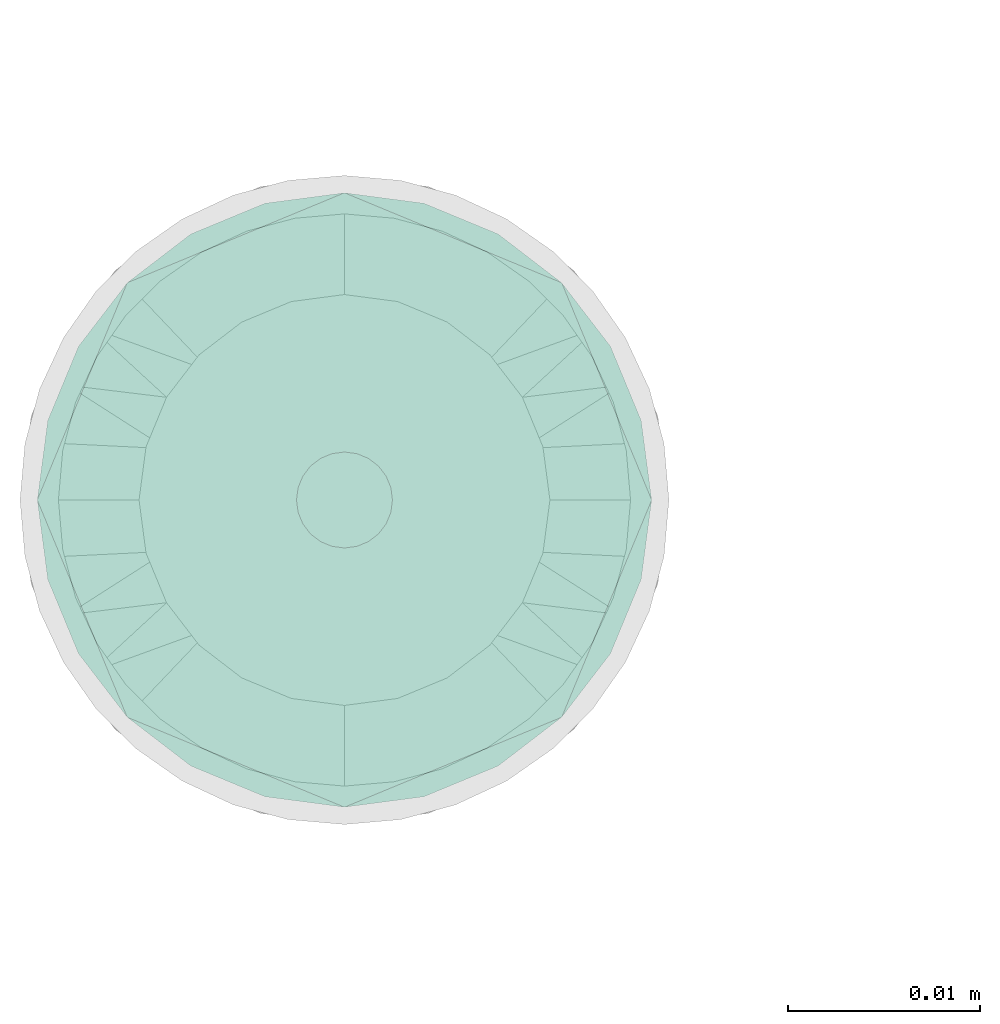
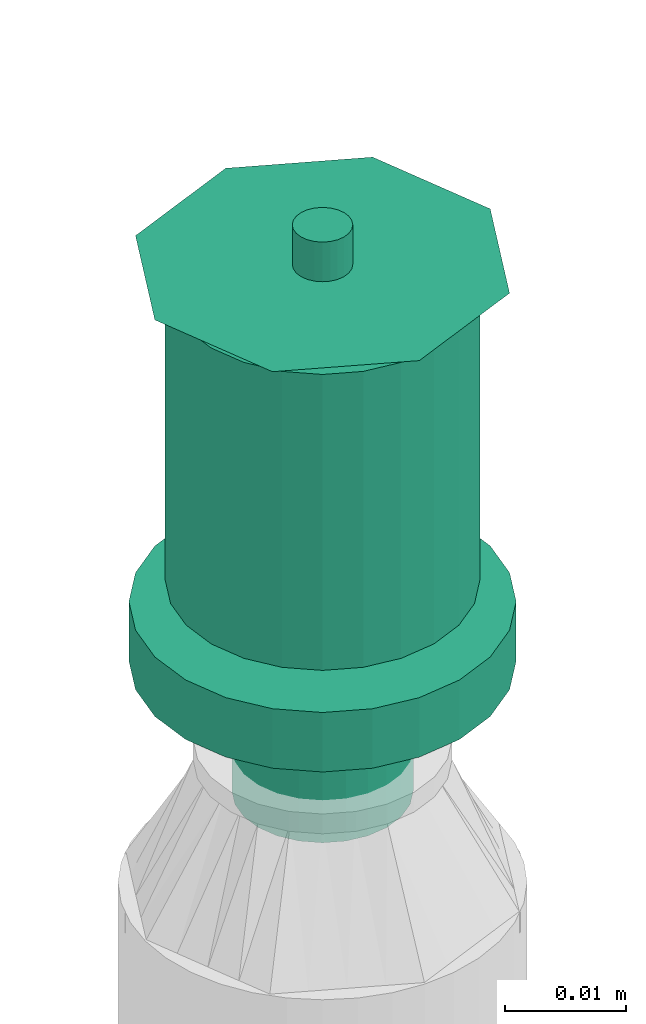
# One storey, part 16 of 44: 1 flow terminal.
"""IFC2X3 building model written with IfcOpenShell, lengths in millimetres."""

from ifc_helpers import new_model, entity, si_unit, converted_unit, derived_unit, direction, frame, origin_with_axes, place, context, subcontext, project, spatial, open_shell, surface_model, source, transform, mapped, type_object, element, save


model = new_model("IFC2X3")

# Units and contexts
model_context = context("Model", 3, precision=0.01, world=frame((0.0, 4.29681676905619e-09, 0.0)), true_north=direction((4.01073788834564e-13, 1.0)))
plan_context = context("Plan", 3, precision=0.01, world=frame((0.0, 4.29681676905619e-09, 0.0)), true_north=direction((4.01073788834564e-13, 1.0)))
body_context = subcontext(model_context, "Body", "Model", "MODEL_VIEW")
ifc_project = project(units=[converted_unit("PLANEANGLEUNIT", "DEGREE", entity("IfcPositiveLengthMeasure", 0.0174532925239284), si_unit("PLANEANGLEUNIT", "RADIAN"), dimensions=[0, 0, 0, 0, 0, 0, 0]), si_unit("AREAUNIT", "SQUARE_METRE"), si_unit("LENGTHUNIT", "METRE", prefix="MILLI"), si_unit("MASSUNIT", "GRAM", prefix="KILO"), si_unit("POWERUNIT", "WATT"), si_unit("PRESSUREUNIT", "PASCAL"), si_unit("FORCEUNIT", "NEWTON", prefix="KILO"), si_unit("ELECTRICVOLTAGEUNIT", "VOLT"), si_unit("ELECTRICCURRENTUNIT", "AMPERE"), si_unit("THERMODYNAMICTEMPERATUREUNIT", "DEGREE_CELSIUS"), si_unit("TIMEUNIT", "SECOND"), si_unit("VOLUMEUNIT", "CUBIC_METRE"), derived_unit("LINEARVELOCITYUNIT", [(si_unit("LENGTHUNIT", "METRE"), 1), (si_unit("TIMEUNIT", "SECOND"), -1)]), derived_unit("VOLUMETRICFLOWRATEUNIT", [(si_unit("VOLUMEUNIT", "CUBIC_METRE"), 1), (si_unit("TIMEUNIT", "SECOND"), -1)]), derived_unit("THERMALTRANSMITTANCEUNIT", [(si_unit("POWERUNIT", "WATT"), 1), (si_unit("THERMODYNAMICTEMPERATUREUNIT", "KELVIN"), -1), (si_unit("AREAUNIT", "SQUARE_METRE"), -1)]), derived_unit("SOUNDPRESSUREUNIT", [(si_unit("PRESSUREUNIT", "PASCAL"), 1)])], contexts=[model_context, plan_context])

# Site, building, storey
site_placement = place(None, frame((0.0, -4.29681676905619e-09, 0.0), z_axis=(0.0, 0.0, 1.0), x_axis=(1.0, 0.0, 0.0)))
site = spatial("IfcSite", under=ifc_project, at=site_placement, CompositionType="ELEMENT")
building_placement = place(site_placement, frame((0.0, 4.29681676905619e-09, 0.0), z_axis=(0.0, 0.0, 1.0), x_axis=(1.0, 0.0, 0.0)))
building = spatial("IfcBuilding", under=site, at=building_placement, Name="mc-building", CompositionType="ELEMENT")
storey_placement = place(building_placement, frame((0.0, 0.0, 207370.0), z_axis=(0.0, 0.0, 1.0), x_axis=(1.0, 0.0, 0.0)))
storey = spatial("IfcBuildingStorey", under=building, at=storey_placement, Name="Nivå E", CompositionType="ELEMENT", Elevation=207370.0)

# Flow terminal
fire_suppression_terminal_type = type_object("IfcFireSuppressionTerminalType", Name="68DGR-STD-STÅENDE", PredefinedType="NOTDEFINED")
shared_shape = source(origin_with_axes(), body_context, "Body", "SurfaceModel", [
    surface_model("IfcShellBasedSurfaceModel", [(3.36465, -12.55704, 51.0), (6.5, -11.25833, 51.0), (9.19239, -9.19239, 51.0), (12.55704, -3.36465, 51.0), (-11.25833, -6.5, 51.0), (11.25833, -6.5, 51.0), (-13.0, 0.0, 51.0), (0.0, -13.0, 51.0), (-6.5, -11.25833, 51.0), (-3.36465, -12.55704, 51.0), (-9.19239, -9.19239, 51.0), (-12.55704, -3.36465, 51.0), (13.0, 0.0, 51.0), (12.55704, 3.36465, 51.0), (11.25833, 6.5, 51.0), (9.19239, 9.19239, 51.0), (6.5, 11.25833, 51.0), (3.36465, 12.55704, 51.0), (0.0, 13.0, 51.0), (-3.36465, 12.55704, 51.0), (-12.55704, 3.36465, 51.0), (-9.19239, 9.19239, 51.0), (-11.25833, 6.5, 51.0), (-6.5, 11.25833, 51.0), (0.0, 13.0, 21.14766), (3.36465, 12.55704, 21.14766), (6.5, 11.25833, 21.14766), (-3.36465, 12.55704, 21.14766), (9.19239, 9.19239, 21.14766), (11.25833, 6.5, 21.14766), (12.55704, 3.36465, 21.14766), (-12.55704, 3.36465, 21.14766), (-11.25833, -6.5, 21.14766), (-9.19239, 9.19239, 21.14766), (-6.5, 11.25833, 21.14766), (-11.25833, 6.5, 21.14766), (-13.0, 0.0, 21.14766), (12.55704, -3.36465, 21.14766), (9.19239, -9.19239, 21.14766), (11.25833, -6.5, 21.14766), (6.5, -11.25833, 21.14766), (3.36465, -12.55704, 21.14766), (-6.5, -11.25833, 21.14766), (-9.19239, -9.19239, 21.14766), (-12.55704, -3.36465, 21.14766), (0.0, -13.0, 21.14766), (-3.36465, -12.55704, 21.14766), (13.0, 0.0, 21.14766), (7.24444, -1.94114, 0.1), (1.94114, -7.24444, 0.1), (3.75, -6.49519, 0.1), (5.3033, -5.3033, 0.1), (-5.3033, -5.3033, 0.1), (6.49519, -3.75, 0.1), (5.3033, 5.3033, 0.1), (0.0, -7.5, 0.1), (-3.75, -6.49519, 0.1), (-1.94114, -7.24444, 0.1), (-7.24444, -1.94114, 0.1), (-6.49519, -3.75, 0.1), (-7.24444, 1.94114, 0.1), (7.5, 0.0, 0.1), (6.49519, 3.75, 0.1), (-6.49519, 3.75, 0.1), (1.94114, 7.24444, 0.1), (0.0, 7.5, 0.1), (3.75, 6.49519, 0.1), (-7.5, 0.0, 0.1), (-5.3033, 5.3033, 0.1), (-1.94114, 7.24444, 0.1), (-3.75, 6.49519, 0.1), (7.24444, 1.94114, 0.1), (1.94114, 7.24444, -0.1), (-6.49519, 3.75, -0.1), (0.0, 7.5, -0.1), (5.3033, 5.3033, -0.1), (3.75, 6.49519, -0.1), (6.49519, 3.75, -0.1), (7.24444, 1.94114, -0.1), (-1.94114, 7.24444, -0.1), (-5.3033, 5.3033, -0.1), (-3.75, 6.49519, -0.1), (-7.24444, 1.94114, -0.1), (-7.24444, -1.94114, -0.1), (-7.5, 0.0, -0.1), (7.5, 0.0, -0.1), (7.24444, -1.94114, -0.1), (-5.3033, -5.3033, -0.1), (1.94114, -7.24444, -0.1), (6.49519, -3.75, -0.1), (5.3033, -5.3033, -0.1), (3.75, -6.49519, -0.1), (-6.49519, -3.75, -0.1), (-3.75, -6.49519, -0.1), (0.0, -7.5, -0.1), (-1.94114, -7.24444, -0.1), (0.0, -2.5, 51.0), (-2.5, 0.0, 51.0), (0.0, 2.5, 51.0), (2.5, 0.0, 51.0), (0.0, -16.0, 53.0), (11.31371, -11.31371, 53.0), (-11.31371, -11.31371, 53.0), (-16.0, 0.0, 53.0), (16.0, 0.0, 53.0), (11.31371, 11.31371, 53.0), (0.0, 16.0, 53.0), (-11.31371, 11.31371, 53.0), (1.25, -2.16506, 57.0), (0.0, -2.5, 57.0), (0.64705, -2.41481, 57.0), (2.41481, -0.64705, 57.0), (1.76777, -1.76777, 57.0), (-2.41481, -0.64705, 57.0), (-2.5, 0.0, 57.0), (2.16506, -1.25, 57.0), (-1.25, -2.16506, 57.0), (-0.64705, -2.41481, 57.0), (-1.76777, -1.76777, 57.0), (-2.16506, -1.25, 57.0), (2.5, 0.0, 57.0), (2.41481, 0.64705, 57.0), (2.16506, 1.25, 57.0), (1.76777, 1.76777, 57.0), (0.64705, 2.41481, 57.0), (1.25, 2.16506, 57.0), (-1.76777, 1.76777, 57.0), (0.0, 2.5, 57.0), (-2.16506, 1.25, 57.0), (-2.41481, 0.64705, 57.0), (-0.64705, 2.41481, 57.0), (-1.25, 2.16506, 57.0), (1.25, 2.16506, 51.0), (1.76777, 1.76777, 51.0), (1.15, 1.99186, 51.0), (0.59528, 2.22163, 51.0), (0.64705, 2.41481, 51.0), (0.0, 2.3, 51.0), (1.62635, 1.62635, 51.0), (2.41481, 0.64705, 51.0), (2.3, 0.0, 51.0), (2.22163, 0.59528, 51.0), (2.16506, 1.25, 51.0), (1.99186, 1.15, 51.0), (-0.59528, 2.22163, 51.0), (-0.64705, 2.41481, 51.0), (-1.15, 1.99186, 51.0), (-1.76777, 1.76777, 51.0), (-1.25, 2.16506, 51.0), (-1.62635, 1.62635, 51.0), (-1.99186, 1.15, 51.0), (-2.16506, 1.25, 51.0), (-2.22163, 0.59528, 51.0), (-2.41481, 0.64705, 51.0), (-2.3, 0.0, 51.0), (2.41481, -0.64705, 51.0), (2.22163, -0.59528, 51.0), (1.99186, -1.15, 51.0), (2.16506, -1.25, 51.0), (1.62635, -1.62635, 51.0), (1.76777, -1.76777, 51.0), (1.25, -2.16506, 51.0), (1.15, -1.99186, 51.0), (0.59528, -2.22163, 51.0), (0.64705, -2.41481, 51.0), (0.0, -2.3, 51.0), (-2.16506, -1.25, 51.0), (-1.99186, -1.15, 51.0), (-1.76777, -1.76777, 51.0), (-1.62635, -1.62635, 51.0), (-2.41481, -0.64705, 51.0), (-2.22163, -0.59528, 51.0), (-0.59528, -2.22163, 51.0), (-0.64705, -2.41481, 51.0), (-1.15, -1.99186, 51.0), (-1.25, -2.16506, 51.0), (1.62635, -1.62635, 56.8), (1.15, -1.99186, 56.8), (0.59528, -2.22163, 56.8), (0.0, -2.3, 56.8), (2.22163, 0.59528, 56.8), (1.99186, -1.15, 56.8), (2.22163, -0.59528, 56.8), (-0.59528, -2.22163, 56.8), (-1.15, -1.99186, 56.8), (-1.62635, -1.62635, 56.8), (-1.99186, -1.15, 56.8), (-2.22163, -0.59528, 56.8), (-1.99186, 1.15, 56.8), (2.3, 0.0, 56.8), (1.62635, 1.62635, 56.8), (1.99186, 1.15, 56.8), (1.15, 1.99186, 56.8), (0.0, 2.3, 56.8), (0.59528, 2.22163, 56.8), (-2.22163, 0.59528, 56.8), (-2.3, 0.0, 56.8), (-1.15, 1.99186, 56.8), (-0.59528, 2.22163, 56.8), (-1.62635, 1.62635, 56.8), (4.1411, -15.45481, 19.0), (8.0, -13.85641, 19.0), (11.31371, -11.31371, 19.0), (-8.0, -13.85641, 19.0), (15.45481, -4.1411, 19.0), (16.0, 0.0, 19.0), (13.85641, -8.0, 19.0), (0.0, -16.0, 19.0), (-4.1411, -15.45481, 19.0), (-13.85641, -8.0, 19.0), (-11.31371, -11.31371, 19.0), (-15.45481, -4.1411, 19.0), (15.45481, 4.1411, 19.0), (13.85641, 8.0, 19.0), (11.31371, 11.31371, 19.0), (-4.1411, 15.45481, 19.0), (8.0, 13.85641, 19.0), (4.1411, 15.45481, 19.0), (0.0, 16.0, 19.0), (-13.85641, 8.0, 19.0), (-15.45481, 4.1411, 19.0), (-16.0, 0.0, 19.0), (-11.31371, 11.31371, 19.0), (-8.0, 13.85641, 19.0), (0.0, 16.0, 13.0), (4.1411, 15.45481, 13.0), (8.0, 13.85641, 13.0), (-4.1411, 15.45481, 13.0), (11.31371, 11.31371, 13.0), (13.85641, 8.0, 13.0), (15.45481, 4.1411, 13.0), (-15.45481, -4.1411, 13.0), (-11.31371, 11.31371, 13.0), (-8.0, 13.85641, 13.0), (-13.85641, 8.0, 13.0), (-15.45481, 4.1411, 13.0), (-16.0, 0.0, 13.0), (4.1411, -15.45481, 13.0), (16.0, 0.0, 13.0), (15.45481, -4.1411, 13.0), (13.85641, -8.0, 13.0), (11.31371, -11.31371, 13.0), (8.0, -13.85641, 13.0), (-8.0, -13.85641, 13.0), (-13.85641, -8.0, 13.0), (-11.31371, -11.31371, 13.0), (0.0, -16.0, 13.0), (-4.1411, -15.45481, 13.0), (7.24444, -1.94114, 13.0), (1.94114, -7.24444, 13.0), (3.75, -6.49519, 13.0), (5.3033, -5.3033, 13.0), (-5.3033, -5.3033, 13.0), (6.49519, -3.75, 13.0), (5.3033, 5.3033, 13.0), (0.0, -7.5, 13.0), (-3.75, -6.49519, 13.0), (-1.94114, -7.24444, 13.0), (-7.24444, -1.94114, 13.0), (-6.49519, -3.75, 13.0), (-7.24444, 1.94114, 13.0), (7.5, 0.0, 13.0), (6.49519, 3.75, 13.0), (-6.49519, 3.75, 13.0), (1.94114, 7.24444, 13.0), (0.0, 7.5, 13.0), (3.75, 6.49519, 13.0), (-7.5, 0.0, 13.0), (-5.3033, 5.3033, 13.0), (-1.94114, 7.24444, 13.0), (-3.75, 6.49519, 13.0), (7.24444, 1.94114, 13.0), (3.75, 6.49519, 0.0), (5.3033, 5.3033, 0.0), (3.65, 6.32199, 0.0), (1.88938, 7.05126, 0.0), (0.0, 7.3, 0.0), (1.94114, 7.24444, 0.0), (0.0, 7.5, 0.0), (5.16188, 5.16188, 0.0), (7.24444, 1.94114, 0.0), (7.3, 0.0, 0.0), (7.05126, 1.88938, 0.0), (7.5, 0.0, 0.0), (6.49519, 3.75, 0.0), (6.32199, 3.65, 0.0), (-1.88938, 7.05126, 0.0), (-1.94114, 7.24444, 0.0), (-3.65, 6.32199, 0.0), (-5.3033, 5.3033, 0.0), (-3.75, 6.49519, 0.0), (-5.16188, 5.16188, 0.0), (-6.32199, 3.65, 0.0), (-6.49519, 3.75, 0.0), (-7.05126, 1.88938, 0.0), (-7.24444, 1.94114, 0.0), (-7.3, 0.0, 0.0), (-7.5, 0.0, 0.0), (7.24444, -1.94114, 0.0), (7.05126, -1.88938, 0.0), (6.32199, -3.65, 0.0), (6.49519, -3.75, 0.0), (5.16188, -5.16188, 0.0), (5.3033, -5.3033, 0.0), (3.75, -6.49519, 0.0), (3.65, -6.32199, 0.0), (1.88938, -7.05126, 0.0), (1.94114, -7.24444, 0.0), (0.0, -7.3, 0.0), (0.0, -7.5, 0.0), (-6.49519, -3.75, 0.0), (-6.32199, -3.65, 0.0), (-5.3033, -5.3033, 0.0), (-5.16188, -5.16188, 0.0), (-7.24444, -1.94114, 0.0), (-7.05126, -1.88938, 0.0), (-1.88938, -7.05126, 0.0), (-1.94114, -7.24444, 0.0), (-3.65, -6.32199, 0.0), (-3.75, -6.49519, 0.0), (1.88938, -7.05126, 12.8), (0.0, -7.3, 12.8), (3.65, -6.32199, 12.8), (5.16188, -5.16188, 12.8), (6.32199, -3.65, 12.8), (7.05126, 1.88938, 12.8), (7.05126, -1.88938, 12.8), (-5.16188, -5.16188, 12.8), (-1.88938, -7.05126, 12.8), (-3.65, -6.32199, 12.8), (-6.32199, -3.65, 12.8), (-7.05126, -1.88938, 12.8), (0.0, 7.3, 12.8), (7.3, 0.0, 12.8), (6.32199, 3.65, 12.8), (5.16188, 5.16188, 12.8), (3.65, 6.32199, 12.8), (1.88938, 7.05126, 12.8), (-6.32199, 3.65, 12.8), (-7.05126, 1.88938, 12.8), (-7.3, 0.0, 12.8), (-3.65, 6.32199, 12.8), (-1.88938, 7.05126, 12.8), (-5.16188, 5.16188, 12.8)], [open_shell([[[0, 1, 2]], [[0, 2, 3]], [[0, 3, 4]], [[3, 2, 5]], [[6, 4, 3]], [[7, 8, 9]], [[7, 0, 8]], [[8, 4, 10]], [[0, 4, 8]], [[4, 6, 11]], [[6, 3, 12]], [[13, 14, 15]], [[6, 13, 15]], [[16, 17, 18]], [[15, 16, 19]], [[18, 19, 16]], [[20, 21, 22]], [[20, 6, 15]], [[21, 19, 23]], [[19, 21, 20]], [[15, 19, 20]], [[13, 6, 12]], [[24, 25, 26]], [[27, 24, 26]], [[28, 29, 30]], [[26, 28, 31]], [[28, 32, 31]], [[27, 33, 34]], [[33, 27, 31]], [[33, 31, 35]], [[27, 26, 31]], [[31, 32, 36]], [[32, 28, 30]], [[32, 30, 37]], [[38, 37, 39]], [[38, 40, 41]], [[38, 41, 37]], [[32, 37, 41]], [[32, 42, 43]], [[44, 36, 32]], [[42, 45, 46]], [[42, 32, 41]], [[45, 42, 41]], [[30, 47, 37]], [[4, 32, 43]], [[8, 42, 46]], [[43, 42, 10]], [[9, 46, 45]], [[36, 11, 6]], [[11, 36, 44]], [[11, 44, 4]], [[44, 32, 4]], [[43, 10, 4]], [[8, 10, 42]], [[46, 9, 8]], [[45, 7, 9]], [[0, 41, 40]], [[38, 1, 40]], [[5, 39, 37]], [[38, 39, 2]], [[3, 37, 47]], [[41, 0, 7]], [[40, 1, 0]], [[38, 2, 1]], [[39, 5, 2]], [[3, 5, 37]], [[47, 12, 3]], [[41, 7, 45]], [[30, 13, 47]], [[29, 14, 30]], [[25, 24, 17]], [[15, 29, 28]], [[30, 14, 13]], [[13, 12, 47]], [[16, 26, 17]], [[16, 15, 28]], [[26, 25, 17]], [[15, 14, 29]], [[28, 26, 16]], [[24, 18, 17]], [[19, 27, 34]], [[33, 23, 34]], [[22, 35, 31]], [[33, 35, 21]], [[20, 31, 36]], [[27, 19, 18]], [[34, 23, 19]], [[33, 21, 23]], [[35, 22, 21]], [[20, 22, 31]], [[36, 6, 20]], [[27, 18, 24]], [[48, 49, 50]], [[48, 50, 51]], [[49, 48, 52]], [[48, 51, 53]], [[54, 52, 48]], [[55, 56, 57]], [[56, 55, 52]], [[52, 58, 59]], [[52, 55, 49]], [[52, 60, 58]], [[54, 48, 61]], [[62, 54, 61]], [[54, 63, 52]], [[64, 65, 54]], [[64, 54, 66]], [[63, 54, 65]], [[63, 60, 52]], [[67, 58, 60]], [[68, 69, 70]], [[69, 68, 63]], [[69, 63, 65]], [[71, 62, 61]], [[72, 73, 74]], [[75, 72, 76]], [[75, 77, 78]], [[72, 75, 73]], [[78, 73, 75]], [[79, 80, 81]], [[80, 79, 73]], [[74, 73, 79]], [[78, 82, 73]], [[82, 83, 84]], [[82, 78, 85]], [[86, 87, 85]], [[88, 86, 89]], [[90, 91, 88]], [[90, 88, 89]], [[87, 86, 88]], [[83, 87, 92]], [[83, 85, 87]], [[93, 94, 95]], [[94, 93, 87]], [[88, 94, 87]], [[85, 83, 82]], [[83, 58, 84]], [[92, 59, 83]], [[56, 87, 93]], [[92, 87, 52]], [[57, 93, 95]], [[83, 59, 58]], [[58, 67, 84]], [[57, 56, 93]], [[52, 87, 56]], [[52, 59, 92]], [[55, 57, 95]], [[95, 94, 55]], [[88, 49, 94]], [[91, 50, 88]], [[53, 90, 89]], [[91, 90, 51]], [[48, 89, 86]], [[91, 51, 50]], [[50, 49, 88]], [[61, 48, 86]], [[53, 89, 48]], [[53, 51, 90]], [[85, 61, 86]], [[94, 49, 55]], [[78, 71, 85]], [[77, 62, 78]], [[66, 75, 76]], [[77, 75, 54]], [[64, 76, 72]], [[78, 62, 71]], [[71, 61, 85]], [[64, 66, 76]], [[54, 75, 66]], [[54, 62, 77]], [[65, 64, 72]], [[72, 74, 65]], [[79, 69, 74]], [[81, 70, 79]], [[63, 80, 73]], [[81, 80, 68]], [[60, 73, 82]], [[81, 68, 70]], [[70, 69, 79]], [[67, 60, 82]], [[63, 73, 60]], [[63, 68, 80]], [[84, 67, 82]], [[74, 69, 65]], [[96, 97, 98]], [[98, 99, 96]], [[100, 101, 102]], [[103, 102, 101]], [[101, 104, 103]], [[104, 105, 106]], [[107, 103, 106]], [[106, 103, 104]], [[99, 98, 105]], [[105, 104, 99]], [[98, 106, 105]], [[98, 107, 106]], [[107, 98, 97]], [[103, 107, 97]], [[97, 96, 102]], [[102, 103, 97]], [[96, 100, 102]], [[96, 101, 100]], [[101, 96, 99]], [[104, 101, 99]], [[108, 109, 110]], [[111, 108, 112]], [[113, 108, 114]], [[111, 112, 115]], [[108, 111, 114]], [[109, 116, 117]], [[116, 109, 118]], [[118, 113, 119]], [[118, 109, 108]], [[108, 113, 118]], [[111, 120, 114]], [[121, 122, 123]], [[114, 121, 123]], [[114, 123, 124]], [[124, 123, 125]], [[126, 124, 127]], [[124, 128, 129]], [[129, 114, 124]], [[126, 130, 131]], [[128, 124, 126]], [[130, 126, 127]], [[121, 114, 120]], [[132, 133, 134]], [[132, 134, 135]], [[136, 135, 137]], [[135, 136, 132]], [[136, 137, 98]], [[134, 133, 138]], [[139, 140, 141]], [[140, 139, 99]], [[139, 141, 142]], [[138, 142, 143]], [[142, 138, 133]], [[143, 142, 141]], [[98, 144, 145]], [[98, 137, 144]], [[145, 144, 146]], [[147, 148, 149]], [[146, 148, 145]], [[149, 148, 146]], [[150, 151, 147]], [[151, 150, 152]], [[150, 147, 149]], [[153, 152, 154]], [[152, 153, 151]], [[153, 154, 97]], [[99, 155, 156]], [[156, 155, 157]], [[157, 158, 159]], [[158, 157, 155]], [[159, 158, 160]], [[160, 161, 162]], [[162, 161, 163]], [[163, 164, 165]], [[164, 163, 161]], [[165, 164, 96]], [[162, 159, 160]], [[166, 167, 168]], [[168, 167, 169]], [[167, 166, 170]], [[97, 171, 170]], [[170, 171, 167]], [[97, 154, 171]], [[172, 96, 173]], [[172, 173, 174]], [[169, 175, 168]], [[175, 169, 174]], [[175, 174, 173]], [[165, 96, 172]], [[156, 140, 99]], [[170, 113, 97]], [[166, 119, 170]], [[116, 168, 175]], [[166, 168, 118]], [[117, 175, 173]], [[170, 119, 113]], [[113, 114, 97]], [[117, 116, 175]], [[118, 168, 116]], [[118, 119, 166]], [[109, 117, 173]], [[173, 96, 109]], [[164, 110, 96]], [[161, 108, 164]], [[115, 160, 158]], [[161, 160, 112]], [[111, 158, 155]], [[161, 112, 108]], [[108, 110, 164]], [[120, 111, 155]], [[115, 158, 111]], [[115, 112, 160]], [[99, 120, 155]], [[96, 110, 109]], [[139, 121, 99]], [[142, 122, 139]], [[125, 133, 132]], [[142, 133, 123]], [[124, 132, 136]], [[139, 122, 121]], [[121, 120, 99]], [[124, 125, 132]], [[123, 133, 125]], [[123, 122, 142]], [[127, 124, 136]], [[136, 98, 127]], [[145, 130, 98]], [[148, 131, 145]], [[128, 147, 151]], [[148, 147, 126]], [[129, 151, 153]], [[148, 126, 131]], [[131, 130, 145]], [[114, 129, 153]], [[128, 151, 129]], [[128, 126, 147]], [[97, 114, 153]], [[98, 130, 127]], [[176, 177, 178]], [[176, 178, 179]], [[180, 176, 179]], [[181, 176, 182]], [[180, 182, 176]], [[183, 184, 179]], [[185, 179, 184]], [[186, 187, 185]], [[185, 187, 188]], [[179, 185, 188]], [[189, 182, 180]], [[190, 191, 180]], [[192, 190, 180]], [[193, 194, 192]], [[180, 193, 192]], [[188, 193, 180]], [[195, 188, 196]], [[196, 188, 187]], [[197, 198, 199]], [[188, 199, 198]], [[188, 198, 193]], [[180, 179, 188]], [[154, 187, 171]], [[171, 186, 167]], [[174, 169, 184]], [[185, 169, 167]], [[172, 174, 183]], [[187, 186, 171]], [[154, 196, 187]], [[174, 184, 183]], [[184, 169, 185]], [[167, 186, 185]], [[172, 183, 179]], [[179, 165, 172]], [[165, 178, 163]], [[163, 177, 162]], [[157, 159, 181]], [[176, 159, 162]], [[156, 157, 182]], [[177, 176, 162]], [[163, 178, 177]], [[156, 182, 189]], [[182, 157, 181]], [[159, 176, 181]], [[156, 189, 140]], [[179, 178, 165]], [[140, 180, 141]], [[141, 191, 143]], [[134, 138, 192]], [[190, 138, 143]], [[135, 134, 194]], [[180, 191, 141]], [[140, 189, 180]], [[134, 192, 194]], [[192, 138, 190]], [[143, 191, 190]], [[135, 194, 193]], [[193, 137, 135]], [[137, 198, 144]], [[144, 197, 146]], [[150, 149, 188]], [[199, 149, 146]], [[152, 150, 195]], [[197, 199, 146]], [[144, 198, 197]], [[152, 195, 196]], [[195, 150, 188]], [[149, 199, 188]], [[152, 196, 154]], [[193, 198, 137]], [[200, 201, 202]], [[203, 200, 202]], [[204, 205, 202]], [[204, 202, 206]], [[203, 202, 205]], [[207, 203, 208]], [[207, 200, 203]], [[203, 209, 210]], [[209, 203, 211]], [[205, 211, 203]], [[205, 212, 211]], [[212, 213, 214]], [[215, 212, 214]], [[216, 217, 218]], [[214, 216, 215]], [[218, 215, 216]], [[211, 219, 220]], [[221, 211, 220]], [[222, 215, 223]], [[215, 222, 219]], [[219, 211, 215]], [[211, 212, 215]], [[224, 225, 226]], [[227, 224, 226]], [[228, 229, 230]], [[227, 226, 228]], [[227, 228, 231]], [[227, 232, 233]], [[232, 227, 234]], [[234, 231, 235]], [[231, 234, 227]], [[235, 231, 236]], [[228, 230, 231]], [[237, 238, 239]], [[237, 239, 240]], [[241, 242, 237]], [[241, 237, 240]], [[238, 237, 243]], [[244, 243, 245]], [[243, 244, 231]], [[243, 246, 247]], [[243, 231, 238]], [[237, 246, 243]], [[238, 231, 230]], [[231, 211, 236]], [[244, 209, 231]], [[203, 245, 243]], [[244, 245, 210]], [[208, 243, 247]], [[231, 209, 211]], [[211, 221, 236]], [[208, 203, 243]], [[210, 245, 203]], [[210, 209, 244]], [[207, 208, 247]], [[247, 246, 207]], [[237, 200, 246]], [[242, 201, 237]], [[206, 241, 240]], [[242, 241, 202]], [[204, 240, 239]], [[242, 202, 201]], [[201, 200, 237]], [[205, 204, 239]], [[206, 240, 204]], [[206, 202, 241]], [[238, 205, 239]], [[246, 200, 207]], [[230, 212, 238]], [[229, 213, 230]], [[216, 228, 226]], [[229, 228, 214]], [[217, 226, 225]], [[230, 213, 212]], [[212, 205, 238]], [[217, 216, 226]], [[214, 228, 216]], [[214, 213, 229]], [[218, 217, 225]], [[225, 224, 218]], [[227, 215, 224]], [[233, 223, 227]], [[219, 232, 234]], [[233, 232, 222]], [[220, 234, 235]], [[233, 222, 223]], [[223, 215, 227]], [[221, 220, 235]], [[219, 234, 220]], [[219, 222, 232]], [[236, 221, 235]], [[224, 215, 218]], [[248, 249, 250]], [[248, 250, 251]], [[249, 248, 252]], [[248, 251, 253]], [[254, 252, 248]], [[255, 256, 257]], [[256, 255, 252]], [[252, 258, 259]], [[252, 255, 249]], [[252, 260, 258]], [[254, 248, 261]], [[262, 254, 261]], [[254, 263, 252]], [[264, 265, 254]], [[264, 254, 266]], [[263, 254, 265]], [[263, 260, 252]], [[267, 258, 260]], [[268, 269, 270]], [[269, 268, 263]], [[269, 263, 265]], [[271, 262, 261]], [[272, 273, 274]], [[272, 274, 275]], [[276, 277, 275]], [[277, 276, 278]], [[275, 277, 272]], [[274, 273, 279]], [[280, 281, 282]], [[281, 280, 283]], [[280, 282, 284]], [[279, 284, 285]], [[284, 279, 273]], [[285, 284, 282]], [[278, 286, 287]], [[287, 286, 288]], [[289, 290, 291]], [[288, 290, 287]], [[288, 291, 290]], [[278, 276, 286]], [[292, 293, 289]], [[293, 292, 294]], [[292, 289, 291]], [[295, 294, 296]], [[294, 295, 293]], [[295, 296, 297]], [[283, 298, 299]], [[299, 298, 300]], [[300, 301, 302]], [[301, 300, 298]], [[302, 301, 303]], [[303, 304, 305]], [[305, 304, 306]], [[306, 307, 308]], [[307, 306, 304]], [[308, 307, 309]], [[305, 302, 303]], [[310, 311, 312]], [[312, 311, 313]], [[311, 310, 314]], [[297, 315, 314]], [[314, 315, 311]], [[297, 296, 315]], [[316, 309, 317]], [[316, 317, 318]], [[313, 319, 312]], [[313, 318, 319]], [[319, 318, 317]], [[308, 309, 316]], [[299, 281, 283]], [[314, 258, 297]], [[310, 259, 314]], [[256, 312, 319]], [[310, 312, 252]], [[257, 319, 317]], [[314, 259, 258]], [[258, 267, 297]], [[257, 256, 319]], [[252, 312, 256]], [[252, 259, 310]], [[255, 257, 317]], [[317, 309, 255]], [[307, 249, 309]], [[304, 250, 307]], [[253, 303, 301]], [[304, 303, 251]], [[248, 301, 298]], [[304, 251, 250]], [[250, 249, 307]], [[261, 248, 298]], [[253, 301, 248]], [[253, 251, 303]], [[283, 261, 298]], [[309, 249, 255]], [[280, 271, 283]], [[284, 262, 280]], [[266, 273, 272]], [[284, 273, 254]], [[264, 272, 277]], [[280, 262, 271]], [[271, 261, 283]], [[264, 266, 272]], [[254, 273, 266]], [[254, 262, 284]], [[265, 264, 277]], [[277, 278, 265]], [[287, 269, 278]], [[290, 270, 287]], [[263, 289, 293]], [[290, 289, 268]], [[260, 293, 295]], [[290, 268, 270]], [[270, 269, 287]], [[267, 260, 295]], [[263, 293, 260]], [[263, 268, 289]], [[297, 267, 295]], [[278, 269, 265]], [[320, 321, 322]], [[323, 322, 324]], [[325, 326, 322]], [[324, 322, 326]], [[322, 327, 325]], [[328, 329, 321]], [[327, 321, 329]], [[330, 331, 327]], [[322, 321, 327]], [[331, 332, 327]], [[326, 325, 333]], [[334, 325, 332]], [[335, 334, 336]], [[332, 337, 336]], [[334, 332, 336]], [[331, 338, 332]], [[339, 338, 340]], [[340, 338, 331]], [[341, 342, 343]], [[332, 338, 343]], [[332, 343, 342]], [[332, 325, 327]], [[296, 331, 315]], [[315, 330, 311]], [[318, 313, 329]], [[327, 313, 311]], [[316, 318, 328]], [[331, 330, 315]], [[296, 340, 331]], [[318, 329, 328]], [[329, 313, 327]], [[311, 330, 327]], [[316, 328, 321]], [[321, 308, 316]], [[308, 320, 306]], [[306, 322, 305]], [[300, 302, 324]], [[323, 302, 305]], [[299, 300, 326]], [[322, 323, 305]], [[306, 320, 322]], [[299, 326, 333]], [[326, 300, 324]], [[302, 323, 324]], [[299, 333, 281]], [[321, 320, 308]], [[281, 325, 282]], [[282, 334, 285]], [[274, 279, 336]], [[335, 279, 285]], [[275, 274, 337]], [[325, 334, 282]], [[281, 333, 325]], [[274, 336, 337]], [[336, 279, 335]], [[285, 334, 335]], [[275, 337, 332]], [[332, 276, 275]], [[276, 342, 286]], [[286, 341, 288]], [[292, 291, 338]], [[343, 291, 288]], [[294, 292, 339]], [[341, 343, 288]], [[286, 342, 341]], [[294, 339, 340]], [[339, 292, 338]], [[291, 343, 338]], [[294, 340, 296]], [[332, 342, 276]]])]),
])
flow_terminal_placement = place(storey_placement, frame((521500.0, 453009.83177, 3036.95754999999), z_axis=(0.0, 0.0, 1.0), x_axis=(1.0, 0.0, 0.0)))
element("IfcFlowTerminal", 1, at=flow_terminal_placement, inside=storey, type_object=fire_suppression_terminal_type, Name="68DGR-STD-STÅENDE", context=body_context, shape_type="MappedRepresentation", body=[
    mapped(shared_shape, transform((0.0, 0.0, 0.0), scale=1.0)),
])

save(model, "model.ifc")
